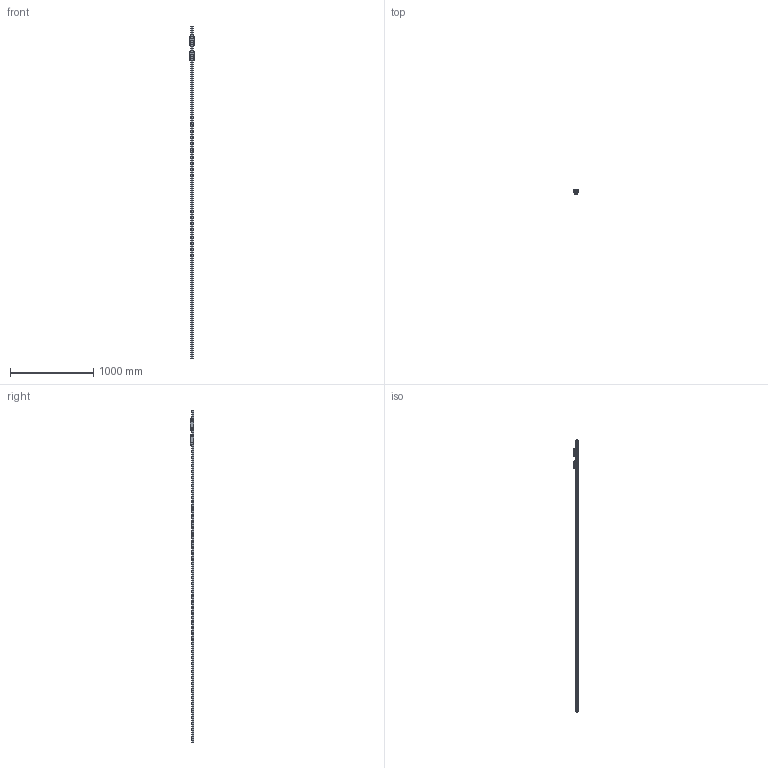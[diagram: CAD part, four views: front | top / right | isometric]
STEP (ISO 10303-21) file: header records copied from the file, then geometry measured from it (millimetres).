
FILE_DESCRIPTION((''),'2;1');
FILE_NAME('ASM0021_ASM','2020-11-24T14:13:44',('TWVS2025'),(''),'CREO PARAMETRIC BY PTC INC, 2018420','CREO PARAMETRIC BY PTC INC, 2018420','');
FILE_SCHEMA(('CONFIG_CONTROL_DESIGN'));
Products named in the file (6): BRR30_CUSTOMER_1_1_1_2_1_1; BC-BRC30-R0_ASM_1_ASM_1_ASM_1_1; BC-BRD30-R0_ASM_ASM_1_ASM_1_1; BRS30-R0_CUSTOMER_ASM_ASM_1_A_1_ASM; BRS30-R0_CUSTOMER_ASM_ASM_ASM_2_ASM; ASM0021_ASM
Assembly tree (5 placements, depth 4):
  ASM0021_ASM
    BRS30-R0_CUSTOMER_ASM_ASM_ASM_2_ASM
      BRS30-R0_CUSTOMER_ASM_ASM_1_A_1_ASM
        BRR30_CUSTOMER_1_1_1_2_1_1
        BC-BRC30-R0_ASM_1_ASM_1_ASM_1_1
        BC-BRD30-R0_ASM_ASM_1_ASM_1_1
Bounding box: 59.95 x 45 x 4000 mm (x, y, z)
Volume: 2448089.7 mm3; surface area: 615785.2 mm2
Topology: 1 solids, 73 shells, 3849 faces, 11622 edges, 7593 vertices
Faces by surface type: plane 1993, cylinder 1077, sphere 228, bspline 198, torus 174, cone 163, extrusion 16
Entity records: 170011 total; most frequent: CARTESIAN_POINT 68442, ORIENTED_EDGE 22513, DIRECTION 19625, EDGE_CURVE 11398, VERTEX_POINT 7593, AXIS2_PLACEMENT_3D 6799, VECTOR 6027, LINE 6011
